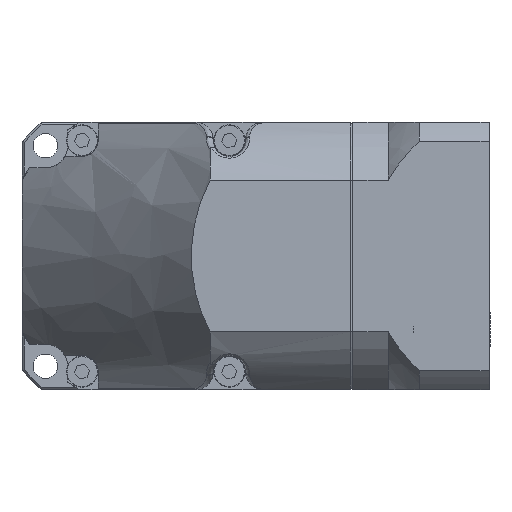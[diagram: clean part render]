
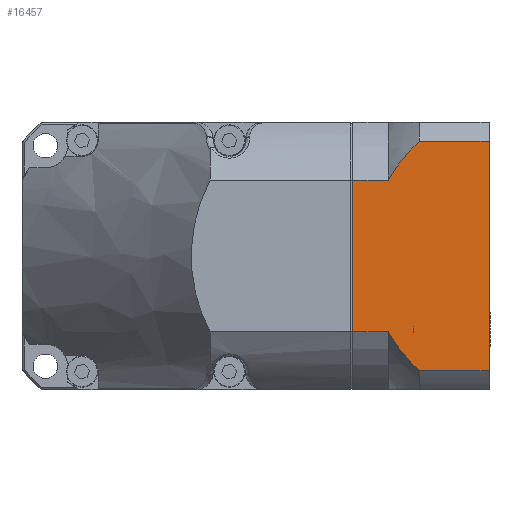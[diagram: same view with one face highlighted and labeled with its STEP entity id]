
A CAD part, front view. The second image highlights one B-rep face of the part: STEP entity #16457.
In plain terms, the highlighted planar face has unit normal (0, -1, 0) as drawn and (1, 0, 0) by its records, which use the part's own axes.
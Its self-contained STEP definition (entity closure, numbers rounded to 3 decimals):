
#643 = CARTESIAN_POINT ( 'NONE',  ( 30., 15., 17.037 ) ) ;
#692 = EDGE_LOOP ( 'NONE', ( #8142, #23330, #3851, #13378, #30179, #30085, #7086, #27644 ) ) ;
#966 = DIRECTION ( 'NONE',  ( 0., 0., -1. ) ) ;
#1319 = DIRECTION ( 'NONE',  ( 0., -1., 0. ) ) ;
#1678 = FACE_OUTER_BOUND ( 'NONE', #692, .T. ) ;
#2059 = VERTEX_POINT ( 'NONE', #33978 ) ;
#3851 = ORIENTED_EDGE ( 'NONE', *, *, #29723, .T. ) ;
#3869 = CARTESIAN_POINT ( 'NONE',  ( 30., -32.128, -25.695 ) ) ;
#5235 = VERTEX_POINT ( 'NONE', #38093 ) ;
#5721 = CARTESIAN_POINT ( 'NONE',  ( 30., -17.2, 17.037 ) ) ;
#6327 = LINE ( 'NONE', #38654, #22093 ) ;
#7086 = ORIENTED_EDGE ( 'NONE', *, *, #19147, .T. ) ;
#7612 = CARTESIAN_POINT ( 'NONE',  ( 30., 15., -30. ) ) ;
#7844 = VECTOR ( 'NONE', #37420, 1000. ) ;
#7987 = CARTESIAN_POINT ( 'NONE',  ( 30., -17.2, 0. ) ) ;
#8142 = ORIENTED_EDGE ( 'NONE', *, *, #21657, .T. ) ;
#8884 = AXIS2_PLACEMENT_3D ( 'NONE', #7612, #10739, #32922 ) ;
#9527 = EDGE_CURVE ( 'NONE', #34190, #5235, #21376, .T. ) ;
#9801 = CIRCLE ( 'NONE', #21342, 34.644 ) ;
#10739 = DIRECTION ( 'NONE',  ( 1., 0., 0. ) ) ;
#10773 = DIRECTION ( 'NONE',  ( 1., 0., 0. ) ) ;
#11295 = CARTESIAN_POINT ( 'NONE',  ( 30., -17.2, -17.037 ) ) ;
#11463 = CARTESIAN_POINT ( 'NONE',  ( 30., -47.8, 25.695 ) ) ;
#12420 = VERTEX_POINT ( 'NONE', #5721 ) ;
#12864 = DIRECTION ( 'NONE',  ( 0., 1., 0. ) ) ;
#13182 = VERTEX_POINT ( 'NONE', #3869 ) ;
#13378 = ORIENTED_EDGE ( 'NONE', *, *, #17571, .T. ) ;
#13870 = EDGE_CURVE ( 'NONE', #12420, #23626, #30317, .T. ) ;
#14342 = CARTESIAN_POINT ( 'NONE',  ( 30., -47.8, -25.695 ) ) ;
#16075 = DIRECTION ( 'NONE',  ( 0., -1., 0. ) ) ;
#16457 = ADVANCED_FACE ( 'NONE', ( #1678 ), #26542, .T. ) ;
#17482 = DIRECTION ( 'NONE',  ( 1., 0., 0. ) ) ;
#17571 = EDGE_CURVE ( 'NONE', #13182, #2059, #9801, .T. ) ;
#18602 = EDGE_CURVE ( 'NONE', #33912, #19947, #6327, .T. ) ;
#18829 = VECTOR ( 'NONE', #23723, 1000. ) ;
#19147 = EDGE_CURVE ( 'NONE', #12420, #34190, #32236, .T. ) ;
#19271 = CARTESIAN_POINT ( 'NONE',  ( 30., 15., -25.695 ) ) ;
#19947 = VERTEX_POINT ( 'NONE', #14342 ) ;
#21342 = AXIS2_PLACEMENT_3D ( 'NONE', #29789, #10773, #32963 ) ;
#21376 = CIRCLE ( 'NONE', #35652, 34.644 ) ;
#21593 = CARTESIAN_POINT ( 'NONE',  ( 30., 15., 25.695 ) ) ;
#21657 = EDGE_CURVE ( 'NONE', #5235, #33912, #25606, .T. ) ;
#22093 = VECTOR ( 'NONE', #966, 1000. ) ;
#22113 = VECTOR ( 'NONE', #1319, 1000. ) ;
#22212 = EDGE_CURVE ( 'NONE', #23626, #2059, #30582, .T. ) ;
#22806 = VECTOR ( 'NONE', #16075, 1000. ) ;
#23330 = ORIENTED_EDGE ( 'NONE', *, *, #18602, .T. ) ;
#23626 = VERTEX_POINT ( 'NONE', #11295 ) ;
#23723 = DIRECTION ( 'NONE',  ( 0., 0., -1. ) ) ;
#25378 = VECTOR ( 'NONE', #12864, 1000. ) ;
#25606 = LINE ( 'NONE', #21593, #7844 ) ;
#26410 = LINE ( 'NONE', #19271, #25378 ) ;
#26542 = PLANE ( 'NONE',  #8884 ) ;
#27644 = ORIENTED_EDGE ( 'NONE', *, *, #9527, .T. ) ;
#29723 = EDGE_CURVE ( 'NONE', #19947, #13182, #26410, .T. ) ;
#29789 = CARTESIAN_POINT ( 'NONE',  ( 30., -55.366, 0. ) ) ;
#30085 = ORIENTED_EDGE ( 'NONE', *, *, #13870, .F. ) ;
#30179 = ORIENTED_EDGE ( 'NONE', *, *, #22212, .F. ) ;
#30317 = LINE ( 'NONE', #7987, #18829 ) ;
#30582 = LINE ( 'NONE', #39040, #22113 ) ;
#32236 = LINE ( 'NONE', #643, #22806 ) ;
#32246 = CARTESIAN_POINT ( 'NONE',  ( 30., -25.2, 17.037 ) ) ;
#32922 = DIRECTION ( 'NONE',  ( 0., 0., -1. ) ) ;
#32963 = DIRECTION ( 'NONE',  ( 0., -1., 0. ) ) ;
#33912 = VERTEX_POINT ( 'NONE', #11463 ) ;
#33978 = CARTESIAN_POINT ( 'NONE',  ( 30., -25.2, -17.037 ) ) ;
#34190 = VERTEX_POINT ( 'NONE', #32246 ) ;
#35652 = AXIS2_PLACEMENT_3D ( 'NONE', #36505, #17482, #39709 ) ;
#36505 = CARTESIAN_POINT ( 'NONE',  ( 30., -55.366, 0. ) ) ;
#37420 = DIRECTION ( 'NONE',  ( 0., -1., 0. ) ) ;
#38093 = CARTESIAN_POINT ( 'NONE',  ( 30., -32.128, 25.695 ) ) ;
#38654 = CARTESIAN_POINT ( 'NONE',  ( 30., -47.8, -30. ) ) ;
#39040 = CARTESIAN_POINT ( 'NONE',  ( 30., 0., -17.037 ) ) ;
#39709 = DIRECTION ( 'NONE',  ( 0., -1., 0. ) ) ;
